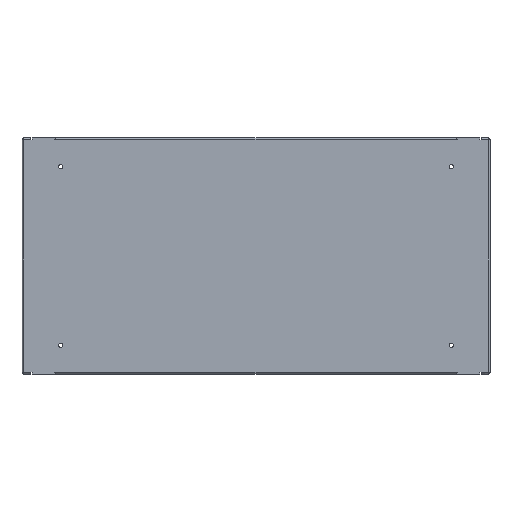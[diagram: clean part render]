
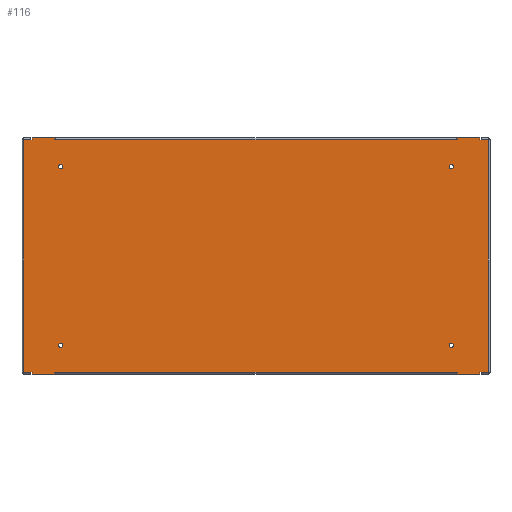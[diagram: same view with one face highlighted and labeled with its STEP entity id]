
A CAD part, top view. The second image highlights one B-rep face of the part: STEP entity #116.
In plain terms, the highlighted planar face has unit normal (0, 0, 1).
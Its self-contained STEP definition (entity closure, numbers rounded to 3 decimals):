
#116=ADVANCED_FACE('',(#582,#584,#586,#588,#590),#592,.F.);
#582=FACE_BOUND('',#583,.T.);
#583=EDGE_LOOP('',(#1966,#1967,#1968,#1969,#1970,#1971,#1972,#1973,#1974,#1975,#1976,
#1977,#1978,#1979,#1980,#1981,#1982,#1983,#1984,#1985,#1986,#1987,#1988,#1989,#1990,
#1991,#1992,#1993));
#584=FACE_BOUND('',#585,.T.);
#585=EDGE_LOOP('',(#1994));
#586=FACE_BOUND('',#587,.T.);
#587=EDGE_LOOP('',(#1995));
#588=FACE_BOUND('',#589,.T.);
#589=EDGE_LOOP('',(#1996));
#590=FACE_BOUND('',#591,.T.);
#591=EDGE_LOOP('',(#1997));
#592=PLANE('',#593);
#593=AXIS2_PLACEMENT_3D('',#594,#595,#596);
#594=CARTESIAN_POINT('',(0.,0.,0.));
#595=DIRECTION('',(0.,0.,-1.));
#596=DIRECTION('',(-1.,0.,0.));
#1966=ORIENTED_EDGE('',*,*,#2666,.T.);
#1967=ORIENTED_EDGE('',*,*,#2565,.T.);
#1968=ORIENTED_EDGE('',*,*,#2549,.T.);
#1969=ORIENTED_EDGE('',*,*,#2667,.F.);
#1970=ORIENTED_EDGE('',*,*,#2668,.F.);
#1971=ORIENTED_EDGE('',*,*,#2669,.F.);
#1972=ORIENTED_EDGE('',*,*,#2551,.T.);
#1973=ORIENTED_EDGE('',*,*,#2557,.T.);
#1974=ORIENTED_EDGE('',*,*,#2541,.T.);
#1975=ORIENTED_EDGE('',*,*,#2670,.F.);
#1976=ORIENTED_EDGE('',*,*,#2671,.F.);
#1977=ORIENTED_EDGE('',*,*,#2672,.F.);
#1978=ORIENTED_EDGE('',*,*,#2543,.T.);
#1979=ORIENTED_EDGE('',*,*,#2559,.T.);
#1980=ORIENTED_EDGE('',*,*,#2673,.T.);
#1981=ORIENTED_EDGE('',*,*,#2674,.T.);
#1982=ORIENTED_EDGE('',*,*,#2675,.F.);
#1983=ORIENTED_EDGE('',*,*,#2676,.T.);
#1984=ORIENTED_EDGE('',*,*,#2677,.T.);
#1985=ORIENTED_EDGE('',*,*,#2678,.T.);
#1986=ORIENTED_EDGE('',*,*,#2610,.F.);
#1987=ORIENTED_EDGE('',*,*,#2618,.T.);
#1988=ORIENTED_EDGE('',*,*,#2679,.F.);
#1989=ORIENTED_EDGE('',*,*,#2680,.T.);
#1990=ORIENTED_EDGE('',*,*,#2681,.T.);
#1991=ORIENTED_EDGE('',*,*,#2682,.T.);
#1992=ORIENTED_EDGE('',*,*,#2614,.F.);
#1993=ORIENTED_EDGE('',*,*,#2622,.T.);
#1994=ORIENTED_EDGE('',*,*,#2521,.T.);
#1995=ORIENTED_EDGE('',*,*,#2523,.T.);
#1996=ORIENTED_EDGE('',*,*,#2535,.F.);
#1997=ORIENTED_EDGE('',*,*,#2537,.F.);
#2521=EDGE_CURVE('',#2895,#2895,#2896,.T.);
#2523=EDGE_CURVE('',#2899,#2899,#2900,.T.);
#2535=EDGE_CURVE('',#2923,#2923,#2924,.T.);
#2537=EDGE_CURVE('',#2927,#2927,#2928,.T.);
#2541=EDGE_CURVE('',#2936,#2934,#2937,.T.);
#2543=EDGE_CURVE('',#2939,#2940,#2941,.T.);
#2549=EDGE_CURVE('',#2952,#2950,#2953,.T.);
#2551=EDGE_CURVE('',#2955,#2956,#2957,.T.);
#2557=EDGE_CURVE('',#2956,#2936,#2967,.T.);
#2559=EDGE_CURVE('',#2940,#2969,#2970,.T.);
#2565=EDGE_CURVE('',#2980,#2952,#2981,.T.);
#2610=EDGE_CURVE('',#3052,#3048,#3054,.T.);
#2614=EDGE_CURVE('',#3060,#3056,#3062,.T.);
#2618=EDGE_CURVE('',#3052,#3067,#3069,.T.);
#2622=EDGE_CURVE('',#3060,#3074,#3076,.T.);
#2666=EDGE_CURVE('',#3074,#2980,#3148,.T.);
#2667=EDGE_CURVE('',#3149,#2950,#3150,.T.);
#2668=EDGE_CURVE('',#3151,#3149,#3152,.T.);
#2669=EDGE_CURVE('',#2955,#3151,#3153,.T.);
#2670=EDGE_CURVE('',#3154,#2934,#3155,.T.);
#2671=EDGE_CURVE('',#3156,#3154,#3157,.T.);
#2672=EDGE_CURVE('',#2939,#3156,#3158,.T.);
#2673=EDGE_CURVE('',#2969,#3159,#3160,.T.);
#2674=EDGE_CURVE('',#3159,#3161,#3162,.T.);
#2675=EDGE_CURVE('',#3163,#3161,#3164,.T.);
#2676=EDGE_CURVE('',#3163,#3165,#3166,.T.);
#2677=EDGE_CURVE('',#3165,#3167,#3168,.T.);
#2678=EDGE_CURVE('',#3167,#3048,#3169,.T.);
#2679=EDGE_CURVE('',#3170,#3067,#3171,.T.);
#2680=EDGE_CURVE('',#3170,#3172,#3173,.T.);
#2681=EDGE_CURVE('',#3172,#3174,#3175,.T.);
#2682=EDGE_CURVE('',#3174,#3056,#3176,.T.);
#2895=VERTEX_POINT('',#3507);
#2896=CIRCLE('',#3508,3.65);
#2899=VERTEX_POINT('',#3517);
#2900=CIRCLE('',#3518,3.65);
#2923=VERTEX_POINT('',#3577);
#2924=CIRCLE('',#3578,3.65);
#2927=VERTEX_POINT('',#3587);
#2928=CIRCLE('',#3588,3.65);
#2934=VERTEX_POINT('',#3602);
#2936=VERTEX_POINT('',#3606);
#2937=LINE('',#3607,#3608);
#2939=VERTEX_POINT('',#3613);
#2940=VERTEX_POINT('',#3614);
#2941=LINE('',#3615,#3616);
#2950=VERTEX_POINT('',#3634);
#2952=VERTEX_POINT('',#3638);
#2953=LINE('',#3639,#3640);
#2955=VERTEX_POINT('',#3645);
#2956=VERTEX_POINT('',#3646);
#2957=LINE('',#3647,#3648);
#2967=LINE('',#3670,#3671);
#2969=VERTEX_POINT('',#3677);
#2970=LINE('',#3678,#3679);
#2980=VERTEX_POINT('',#3716);
#2981=LINE('',#3717,#3718);
#3048=VERTEX_POINT('',#3912);
#3052=VERTEX_POINT('',#3920);
#3054=LINE('',#3924,#3925);
#3056=VERTEX_POINT('',#3928);
#3060=VERTEX_POINT('',#3936);
#3062=LINE('',#3940,#3941);
#3067=VERTEX_POINT('',#3952);
#3069=LINE('',#3957,#3958);
#3074=VERTEX_POINT('',#3969);
#3076=LINE('',#3987,#3988);
#3148=LINE('',#4163,#4164);
#3149=VERTEX_POINT('',#4166);
#3150=LINE('',#4167,#4168);
#3151=VERTEX_POINT('',#4170);
#3152=LINE('',#4171,#4172);
#3153=LINE('',#4174,#4175);
#3154=VERTEX_POINT('',#4177);
#3155=LINE('',#4178,#4179);
#3156=VERTEX_POINT('',#4181);
#3157=LINE('',#4182,#4183);
#3158=LINE('',#4185,#4186);
#3159=VERTEX_POINT('',#4188);
#3160=LINE('',#4189,#4190);
#3161=VERTEX_POINT('',#4192);
#3162=LINE('',#4193,#4194);
#3163=VERTEX_POINT('',#4196);
#3164=LINE('',#4197,#4198);
#3165=VERTEX_POINT('',#4200);
#3166=LINE('',#4201,#4202);
#3167=VERTEX_POINT('',#4204);
#3168=LINE('',#4205,#4206);
#3169=LINE('',#4208,#4209);
#3170=VERTEX_POINT('',#4211);
#3171=LINE('',#4212,#4213);
#3172=VERTEX_POINT('',#4215);
#3173=LINE('',#4216,#4217);
#3174=VERTEX_POINT('',#4219);
#3175=LINE('',#4220,#4221);
#3176=LINE('',#4223,#4224);
#3507=CARTESIAN_POINT('',(-324.35,-150.,0.));
#3508=AXIS2_PLACEMENT_3D('',#3509,#3510,#3511);
#3509=CARTESIAN_POINT('',(-328.,-150.,0.));
#3510=DIRECTION('',(0.,0.,-1.));
#3511=DIRECTION('',(1.,0.,0.));
#3517=CARTESIAN_POINT('',(331.65,-150.,0.));
#3518=AXIS2_PLACEMENT_3D('',#3519,#3520,#3521);
#3519=CARTESIAN_POINT('',(328.,-150.,0.));
#3520=DIRECTION('',(0.,0.,-1.));
#3521=DIRECTION('',(1.,0.,0.));
#3577=CARTESIAN_POINT('',(-324.35,150.,0.));
#3578=AXIS2_PLACEMENT_3D('',#3579,#3580,#3581);
#3579=CARTESIAN_POINT('',(-328.,150.,0.));
#3580=DIRECTION('',(0.,0.,1.));
#3581=DIRECTION('',(-1.,0.,0.));
#3587=CARTESIAN_POINT('',(331.65,150.,0.));
#3588=AXIS2_PLACEMENT_3D('',#3589,#3590,#3591);
#3589=CARTESIAN_POINT('',(328.,150.,0.));
#3590=DIRECTION('',(0.,0.,1.));
#3591=DIRECTION('',(-1.,0.,0.));
#3602=CARTESIAN_POINT('',(338.2,-195.3,0.));
#3606=CARTESIAN_POINT('',(336.2,-195.3,0.));
#3607=CARTESIAN_POINT('',(336.2,-195.3,0.));
#3608=VECTOR('',#3609,1.);
#3609=DIRECTION('',(1.,0.,0.));
#3613=CARTESIAN_POINT('',(376.2,-195.3,0.));
#3614=CARTESIAN_POINT('',(378.2,-195.3,0.));
#3615=CARTESIAN_POINT('',(376.2,-195.3,0.));
#3616=VECTOR('',#3617,1.);
#3617=DIRECTION('',(1.,0.,0.));
#3634=CARTESIAN_POINT('',(-376.2,-195.3,0.));
#3638=CARTESIAN_POINT('',(-378.2,-195.3,0.));
#3639=CARTESIAN_POINT('',(-378.2,-195.3,0.));
#3640=VECTOR('',#3641,1.);
#3641=DIRECTION('',(1.,0.,0.));
#3645=CARTESIAN_POINT('',(-338.2,-195.3,0.));
#3646=CARTESIAN_POINT('',(-336.2,-195.3,0.));
#3647=CARTESIAN_POINT('',(-338.2,-195.3,0.));
#3648=VECTOR('',#3649,1.);
#3649=DIRECTION('',(1.,0.,0.));
#3670=CARTESIAN_POINT('',(-336.2,-195.3,0.));
#3671=VECTOR('',#3672,1.);
#3672=DIRECTION('',(1.,0.,0.));
#3677=CARTESIAN_POINT('',(390.,-195.3,0.));
#3678=CARTESIAN_POINT('',(378.2,-195.3,0.));
#3679=VECTOR('',#3680,1.);
#3680=DIRECTION('',(1.,0.,0.));
#3716=CARTESIAN_POINT('',(-390.,-195.3,0.));
#3717=CARTESIAN_POINT('',(-390.,-195.3,0.));
#3718=VECTOR('',#3719,1.);
#3719=DIRECTION('',(1.,0.,0.));
#3912=CARTESIAN_POINT('',(338.2,195.3,0.));
#3920=CARTESIAN_POINT('',(336.2,195.3,0.));
#3924=CARTESIAN_POINT('',(336.2,195.3,0.));
#3925=VECTOR('',#3926,1.);
#3926=DIRECTION('',(1.,0.,0.));
#3928=CARTESIAN_POINT('',(-376.2,195.3,0.));
#3936=CARTESIAN_POINT('',(-378.2,195.3,0.));
#3940=CARTESIAN_POINT('',(-378.2,195.3,0.));
#3941=VECTOR('',#3942,1.);
#3942=DIRECTION('',(1.,0.,0.));
#3952=CARTESIAN_POINT('',(-336.2,195.3,0.));
#3957=CARTESIAN_POINT('',(336.2,195.3,0.));
#3958=VECTOR('',#3959,1.);
#3959=DIRECTION('',(-1.,0.,0.));
#3969=CARTESIAN_POINT('',(-390.,195.3,0.));
#3987=CARTESIAN_POINT('',(-378.2,195.3,0.));
#3988=VECTOR('',#3989,1.);
#3989=DIRECTION('',(-1.,0.,0.));
#4163=CARTESIAN_POINT('',(-390.,195.3,0.));
#4164=VECTOR('',#4165,1.);
#4165=DIRECTION('',(0.,-1.,0.));
#4166=CARTESIAN_POINT('',(-376.2,-198.5,0.));
#4167=CARTESIAN_POINT('',(-376.2,-198.5,0.));
#4168=VECTOR('',#4169,1.);
#4169=DIRECTION('',(0.,1.,0.));
#4170=CARTESIAN_POINT('',(-338.2,-198.5,0.));
#4171=CARTESIAN_POINT('',(-338.2,-198.5,0.));
#4172=VECTOR('',#4173,1.);
#4173=DIRECTION('',(-1.,0.,0.));
#4174=CARTESIAN_POINT('',(-338.2,-195.3,0.));
#4175=VECTOR('',#4176,1.);
#4176=DIRECTION('',(0.,-1.,0.));
#4177=CARTESIAN_POINT('',(338.2,-198.5,0.));
#4178=CARTESIAN_POINT('',(338.2,-198.5,0.));
#4179=VECTOR('',#4180,1.);
#4180=DIRECTION('',(0.,1.,0.));
#4181=CARTESIAN_POINT('',(376.2,-198.5,0.));
#4182=CARTESIAN_POINT('',(376.2,-198.5,0.));
#4183=VECTOR('',#4184,1.);
#4184=DIRECTION('',(-1.,0.,0.));
#4185=CARTESIAN_POINT('',(376.2,-195.3,0.));
#4186=VECTOR('',#4187,1.);
#4187=DIRECTION('',(0.,-1.,0.));
#4188=CARTESIAN_POINT('',(390.,195.3,0.));
#4189=CARTESIAN_POINT('',(390.,-195.3,0.));
#4190=VECTOR('',#4191,1.);
#4191=DIRECTION('',(0.,1.,0.));
#4192=CARTESIAN_POINT('',(378.2,195.3,0.));
#4193=CARTESIAN_POINT('',(390.,195.3,0.));
#4194=VECTOR('',#4195,1.);
#4195=DIRECTION('',(-1.,0.,0.));
#4196=CARTESIAN_POINT('',(376.2,195.3,0.));
#4197=CARTESIAN_POINT('',(376.2,195.3,0.));
#4198=VECTOR('',#4199,1.);
#4199=DIRECTION('',(1.,0.,0.));
#4200=CARTESIAN_POINT('',(376.2,198.5,0.));
#4201=CARTESIAN_POINT('',(376.2,195.3,0.));
#4202=VECTOR('',#4203,1.);
#4203=DIRECTION('',(0.,1.,0.));
#4204=CARTESIAN_POINT('',(338.2,198.5,0.));
#4205=CARTESIAN_POINT('',(376.2,198.5,0.));
#4206=VECTOR('',#4207,1.);
#4207=DIRECTION('',(-1.,0.,0.));
#4208=CARTESIAN_POINT('',(338.2,198.5,0.));
#4209=VECTOR('',#4210,1.);
#4210=DIRECTION('',(0.,-1.,0.));
#4211=CARTESIAN_POINT('',(-338.2,195.3,0.));
#4212=CARTESIAN_POINT('',(-338.2,195.3,0.));
#4213=VECTOR('',#4214,1.);
#4214=DIRECTION('',(1.,0.,0.));
#4215=CARTESIAN_POINT('',(-338.2,198.5,0.));
#4216=CARTESIAN_POINT('',(-338.2,195.3,0.));
#4217=VECTOR('',#4218,1.);
#4218=DIRECTION('',(0.,1.,0.));
#4219=CARTESIAN_POINT('',(-376.2,198.5,0.));
#4220=CARTESIAN_POINT('',(-338.2,198.5,0.));
#4221=VECTOR('',#4222,1.);
#4222=DIRECTION('',(-1.,0.,0.));
#4223=CARTESIAN_POINT('',(-376.2,198.5,0.));
#4224=VECTOR('',#4225,1.);
#4225=DIRECTION('',(0.,-1.,0.));
